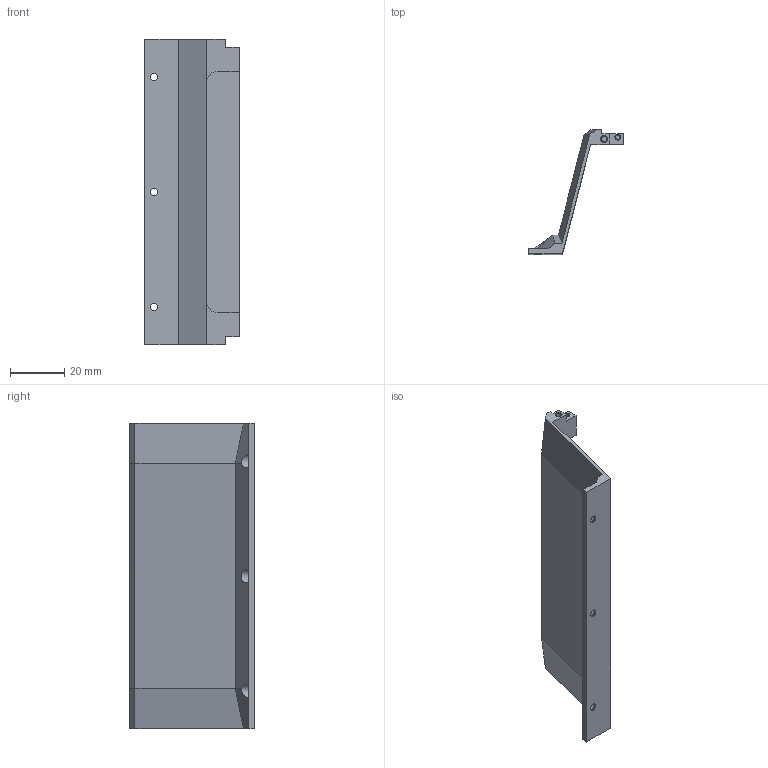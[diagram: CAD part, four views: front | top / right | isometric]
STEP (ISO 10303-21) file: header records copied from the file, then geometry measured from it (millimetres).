
FILE_DESCRIPTION (( 'STEP AP203' ), '1' );
FILE_NAME ('階啣4.STEP', '2026-09-24T08:22:54', ( '' ), ( '' ), 'SwSTEP 2.0', 'SolidWorks 2016', '' );
FILE_SCHEMA (( 'CONFIG_CONTROL_DESIGN' ));
Length unit declared in the file: millimetre
Products named in the file (1): 階啣4
Bounding box: 35 x 46 x 113 mm (x, y, z)
Volume: 22342 mm3; surface area: 16324.4 mm2
Topology: 1 solids, 1 shells, 72 faces, 181 edges, 112 vertices
Faces by surface type: plane 36, cylinder 22, cone 14
Entity records: 2215 total; most frequent: CARTESIAN_POINT 399, DIRECTION 365, ORIENTED_EDGE 362, EDGE_CURVE 181, AXIS2_PLACEMENT_3D 122, LINE 121, VECTOR 121, VERTEX_POINT 112
